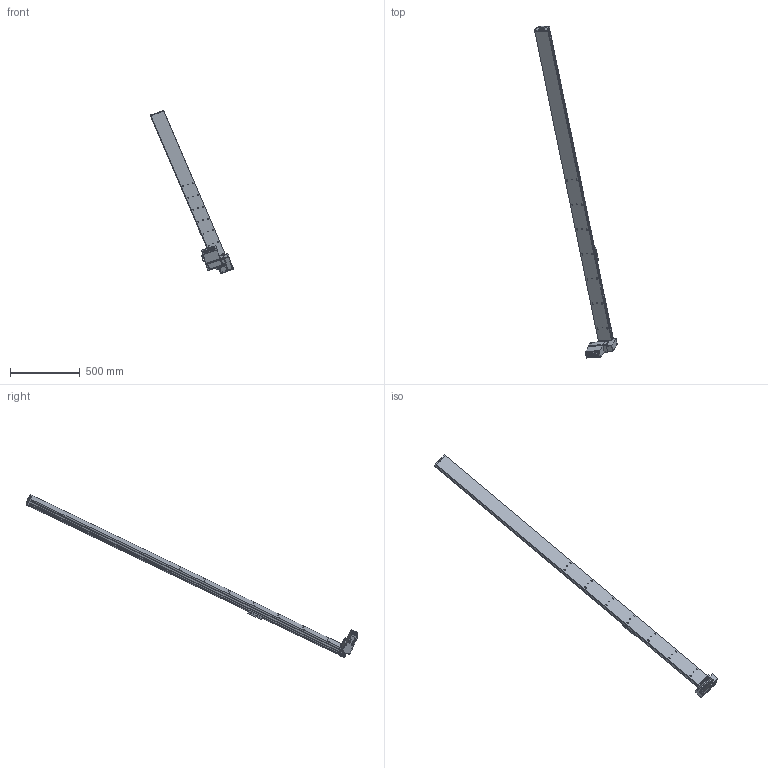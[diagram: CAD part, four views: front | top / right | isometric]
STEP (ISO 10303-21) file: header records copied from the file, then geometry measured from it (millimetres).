
FILE_DESCRIPTION (( 'STEP AP203' ), '1' );
FILE_NAME ('S10 CBH LU S2500.STEP', '2012-10-01T07:08:40', ( '' ), ( '' ), 'SwSTEP 2.0', 'SolidWorks 2010', '' );
FILE_SCHEMA (( 'CONFIG_CONTROL_DESIGN' ));
Length unit declared in the file: millimetre
Products named in the file (14): renvoi LH_Default; Plaque racord_Default; embout; palette tbh; MOTEUR GMI 61 ; S10 CBH LU S2500; plaque de bout s10_Default; cache t皻e axe_Default; cache t皻e_Default; Vis M5 L16-2_Default_1; vis M5 L12_Default; Cvis M5 L30_Default; vis M5 L5_Default; axe 2500
Assembly tree (24 placements, depth 2):
  S10 CBH LU S2500
    palette tbh
    Vis M5 L16-2_Default_1  x4
    vis M5 L5_Default  x4
    Plaque racord_Default
    embout
    cache t皻e axe_Default
    cache t皻e_Default  x2
    Cvis M5 L30_Default  x2
    MOTEUR GMI 61 
    vis M5 L12_Default  x4
    renvoi LH_Default
    plaque de bout s10_Default
    axe 2500
Bounding box: 595.3 x 2381.72 x 1170.06 mm (x, y, z)
Volume: 14108679 mm3; surface area: 1373062.5 mm2
Topology: 24 solids, 24 shells, 1105 faces, 2698 edges, 1674 vertices
Faces by surface type: plane 542, cylinder 414, cone 102, bspline 40, torus 7
Entity records: 28027 total; most frequent: CARTESIAN_POINT 5260, DIRECTION 4501, ORIENTED_EDGE 4212, EDGE_CURVE 2106, AXIS2_PLACEMENT_3D 1605, VERTEX_POINT 1362, VECTOR 1291, LINE 1291
